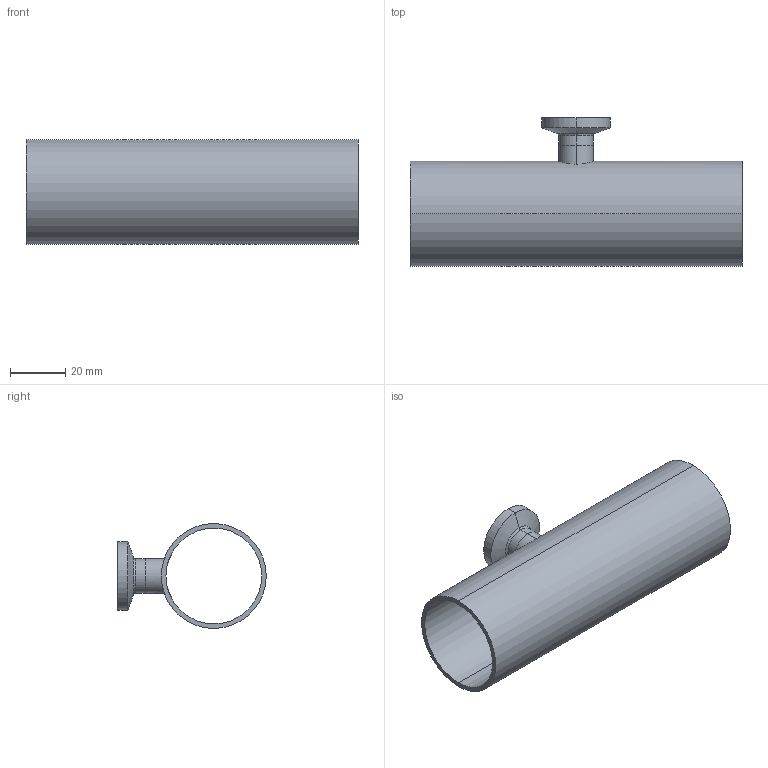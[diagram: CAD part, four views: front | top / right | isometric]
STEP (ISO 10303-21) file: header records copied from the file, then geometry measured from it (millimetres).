
FILE_DESCRIPTION (( 'STEP AP214' ), '1' );
FILE_NAME ('TE7RWWCS6L1.5x.5-...STEP', '2016-05-23T10:57:57', ( 'eran' ), ( '' ), 'SwSTEP 2.0', 'SolidWorks 2016', '' );
FILE_SCHEMA (( 'AUTOMOTIVE_DESIGN' ));
Length unit declared in the file: millimetre
Products named in the file (1): TE7RWWCS6L1.5x.5-..
Bounding box: 120.6 x 53.95 x 38.1 mm (x, y, z)
Volume: 24919.6 mm3; surface area: 30066.9 mm2
Topology: 2 solids, 2 shells, 34 faces, 70 edges, 42 vertices
Faces by surface type: cylinder 16, bspline 8, plane 6, cone 4
Entity records: 1191 total; most frequent: CARTESIAN_POINT 431, DIRECTION 158, ORIENTED_EDGE 140, EDGE_CURVE 70, AXIS2_PLACEMENT_3D 69, EDGE_LOOP 42, VERTEX_POINT 42, CIRCLE 42
